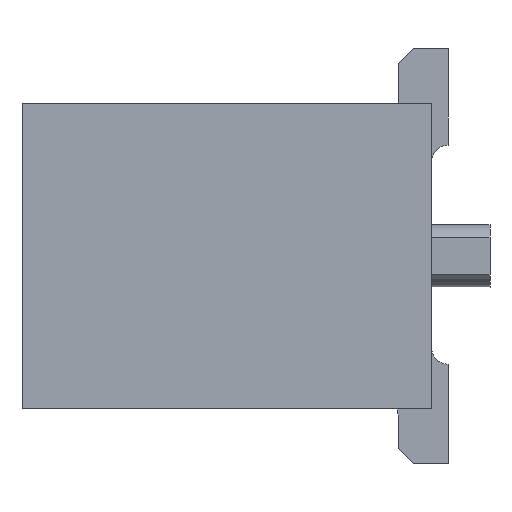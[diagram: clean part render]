
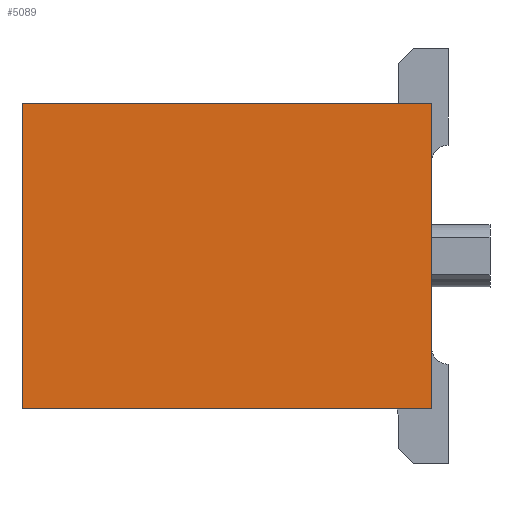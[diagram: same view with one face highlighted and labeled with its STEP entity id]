
A CAD part, left-side view. The second image highlights one B-rep face of the part: STEP entity #5089.
In plain terms, the highlighted planar face has unit normal (-1, 0, 0).
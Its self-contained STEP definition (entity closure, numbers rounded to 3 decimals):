
#201 = CARTESIAN_POINT ( 'NONE',  ( -2.001, -2.258, 1.825 ) ) ;
#265 = VERTEX_POINT ( 'NONE', #471 ) ;
#471 = CARTESIAN_POINT ( 'NONE',  ( -2.001, 2.642, -1.825 ) ) ;
#529 = LINE ( 'NONE', #5979, #3442 ) ;
#803 = VERTEX_POINT ( 'NONE', #9659 ) ;
#1421 = DIRECTION ( 'NONE',  ( 1., 0., 0. ) ) ;
#2005 = DIRECTION ( 'NONE',  ( 0., 0., -1. ) ) ;
#2325 = ORIENTED_EDGE ( 'NONE', *, *, #2383, .F. ) ;
#2383 = EDGE_CURVE ( 'NONE', #803, #5190, #8961, .T. ) ;
#2480 = CARTESIAN_POINT ( 'NONE',  ( -2.001, -2.258, 1.825 ) ) ;
#3131 = DIRECTION ( 'NONE',  ( 0., -1., 0. ) ) ;
#3442 = VECTOR ( 'NONE', #2005, 1000. ) ;
#3494 = VECTOR ( 'NONE', #3131, 1000. ) ;
#3532 = CARTESIAN_POINT ( 'NONE',  ( -2.001, 2.642, 1.825 ) ) ;
#3736 = FACE_OUTER_BOUND ( 'NONE', #8166, .T. ) ;
#3782 = CARTESIAN_POINT ( 'NONE',  ( -2.001, 2.642, 1.825 ) ) ;
#3959 = EDGE_CURVE ( 'NONE', #265, #4012, #7727, .T. ) ;
#4012 = VERTEX_POINT ( 'NONE', #7143 ) ;
#4195 = VECTOR ( 'NONE', #9945, 1000. ) ;
#4822 = EDGE_CURVE ( 'NONE', #5190, #4012, #5672, .T. ) ;
#4968 = ORIENTED_EDGE ( 'NONE', *, *, #6422, .T. ) ;
#5089 = ADVANCED_FACE ( 'NONE', ( #3736 ), #10191, .F. ) ;
#5190 = VERTEX_POINT ( 'NONE', #201 ) ;
#5672 = LINE ( 'NONE', #2480, #6878 ) ;
#5979 = CARTESIAN_POINT ( 'NONE',  ( -2.001, 2.642, 1.825 ) ) ;
#6422 = EDGE_CURVE ( 'NONE', #803, #265, #529, .T. ) ;
#6878 = VECTOR ( 'NONE', #8851, 1000. ) ;
#7143 = CARTESIAN_POINT ( 'NONE',  ( -2.001, -2.258, -1.825 ) ) ;
#7712 = AXIS2_PLACEMENT_3D ( 'NONE', #3782, #1421, #8378 ) ;
#7727 = LINE ( 'NONE', #9450, #3494 ) ;
#8166 = EDGE_LOOP ( 'NONE', ( #9605, #10271, #2325, #4968 ) ) ;
#8378 = DIRECTION ( 'NONE',  ( 0., 1., 0. ) ) ;
#8851 = DIRECTION ( 'NONE',  ( 0., 0., -1. ) ) ;
#8961 = LINE ( 'NONE', #3532, #4195 ) ;
#9450 = CARTESIAN_POINT ( 'NONE',  ( -2.001, 2.642, -1.825 ) ) ;
#9605 = ORIENTED_EDGE ( 'NONE', *, *, #3959, .T. ) ;
#9659 = CARTESIAN_POINT ( 'NONE',  ( -2.001, 2.642, 1.825 ) ) ;
#9945 = DIRECTION ( 'NONE',  ( 0., -1., 0. ) ) ;
#10191 = PLANE ( 'NONE',  #7712 ) ;
#10271 = ORIENTED_EDGE ( 'NONE', *, *, #4822, .F. ) ;
